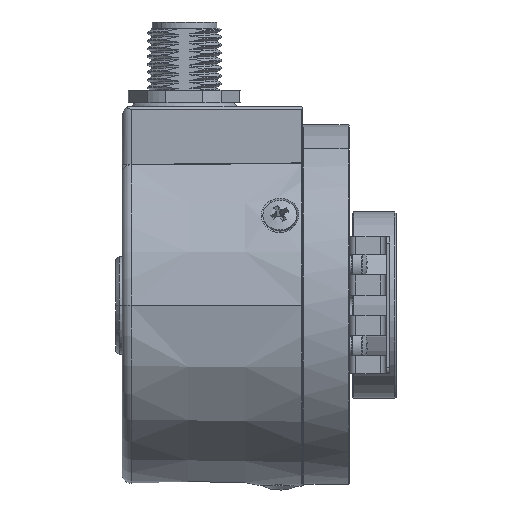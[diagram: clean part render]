
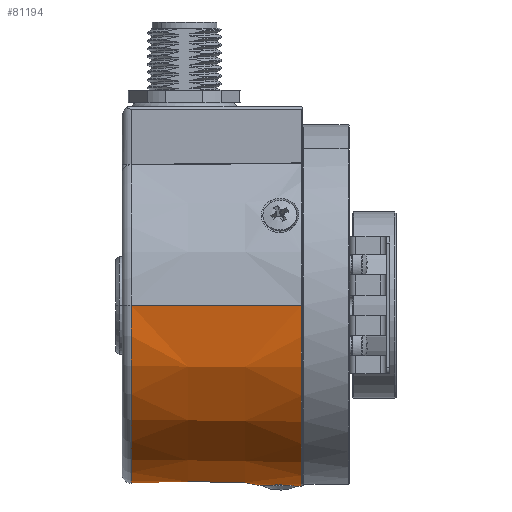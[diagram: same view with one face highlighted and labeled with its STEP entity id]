
A CAD part, left-side view. The second image highlights one B-rep face of the part: STEP entity #81194.
In plain terms, the highlighted conical face has half-angle 1 degrees and reference radius 28.565 mm.
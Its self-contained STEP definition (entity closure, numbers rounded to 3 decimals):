
#707 = CARTESIAN_POINT ( 'NONE',  ( -1.737, 8.646, -28.999 ) ) ;
#1125 = CARTESIAN_POINT ( 'NONE',  ( -1.563, 8.538, -29.012 ) ) ;
#1764 = CARTESIAN_POINT ( 'NONE',  ( 1.738, 13.7, -28.911 ) ) ;
#1955 = CARTESIAN_POINT ( 'NONE',  ( 3.014, 10.223, -28.867 ) ) ;
#2362 = CARTESIAN_POINT ( 'NONE',  ( 2.113, 8.913, -28.97 ) ) ;
#3081 = EDGE_CURVE ( 'NONE', #42388, #29071, #70096, .T. ) ;
#6128 = CARTESIAN_POINT ( 'NONE',  ( 29.068, 7.697, 0. ) ) ;
#6214 = VERTEX_POINT ( 'NONE', #62681 ) ;
#6353 = CARTESIAN_POINT ( 'NONE',  ( 1.738, 13.7, -28.911 ) ) ;
#7023 = CARTESIAN_POINT ( 'NONE',  ( 0.233, 8.153, -29.06 ) ) ;
#7522 = EDGE_CURVE ( 'NONE', #21101, #6214, #66672, .T. ) ;
#7581 = CARTESIAN_POINT ( 'NONE',  ( -2.834, 9.808, -28.892 ) ) ;
#8248 = CARTESIAN_POINT ( 'NONE',  ( -0.796, 8.242, -29.048 ) ) ;
#9918 = FACE_OUTER_BOUND ( 'NONE', #70378, .T. ) ;
#10313 = EDGE_CURVE ( 'NONE', #6214, #65807, #57290, .T. ) ;
#10319 = AXIS2_PLACEMENT_3D ( 'NONE', #61365, #24062, #74408 ) ;
#12244 = CARTESIAN_POINT ( 'NONE',  ( -2.085, 8.864, -28.975 ) ) ;
#12689 = CARTESIAN_POINT ( 'NONE',  ( 0.183, 14.216, -28.956 ) ) ;
#13040 = DIRECTION ( 'NONE',  ( 0., -1., 0. ) ) ;
#13089 = CARTESIAN_POINT ( 'NONE',  ( -1.43, 13.877, -28.925 ) ) ;
#13499 = CARTESIAN_POINT ( 'NONE',  ( -1.613, 13.782, -28.917 ) ) ;
#13919 = ORIENTED_EDGE ( 'NONE', *, *, #10313, .T. ) ;
#13929 = CARTESIAN_POINT ( 'NONE',  ( -3.059, 10.363, -28.86 ) ) ;
#14601 = CARTESIAN_POINT ( 'NONE',  ( 2.404, 9.196, -28.942 ) ) ;
#15263 = EDGE_CURVE ( 'NONE', #65807, #67108, #45537, .T. ) ;
#18612 = CARTESIAN_POINT ( 'NONE',  ( -3.17, 11.343, -28.83 ) ) ;
#19034 = CARTESIAN_POINT ( 'NONE',  ( 0.998, 14.069, -28.942 ) ) ;
#19715 = CARTESIAN_POINT ( 'NONE',  ( 1.953, 8.786, -28.984 ) ) ;
#20548 = CARTESIAN_POINT ( 'NONE',  ( 2.837, 12.533, -28.844 ) ) ;
#21101 = VERTEX_POINT ( 'NONE', #42099 ) ;
#23043 = CONICAL_SURFACE ( 'NONE', #82491, 28.565, 0.017 ) ;
#23873 = DIRECTION ( 'NONE',  ( -1., 0., 0. ) ) ;
#24062 = DIRECTION ( 'NONE',  ( 0., 1., 0. ) ) ;
#25783 = ORIENTED_EDGE ( 'NONE', *, *, #15263, .T. ) ;
#26469 = CARTESIAN_POINT ( 'NONE',  ( -28.565, 36.5, 0. ) ) ;
#26481 = CARTESIAN_POINT ( 'NONE',  ( 2.076, 13.465, -28.893 ) ) ;
#27726 = LINE ( 'NONE', #26469, #51540 ) ;
#27741 = CARTESIAN_POINT ( 'NONE',  ( 3.189, 10.994, -28.834 ) ) ;
#28148 = CARTESIAN_POINT ( 'NONE',  ( 2.534, 9.349, -28.928 ) ) ;
#29071 = VERTEX_POINT ( 'NONE', #73961 ) ;
#29784 = DIRECTION ( 'NONE',  ( 0., -1., 0. ) ) ;
#31745 = CARTESIAN_POINT ( 'NONE',  ( -1.957, 13.558, -28.9 ) ) ;
#32148 = CARTESIAN_POINT ( 'NONE',  ( -1.048, 14.032, -28.939 ) ) ;
#32851 = CARTESIAN_POINT ( 'NONE',  ( 2.737, 12.708, -28.851 ) ) ;
#33272 = CARTESIAN_POINT ( 'NONE',  ( 2.999, 12.168, -28.834 ) ) ;
#34951 = ORIENTED_EDGE ( 'NONE', *, *, #3081, .T. ) ;
#36995 = AXIS2_PLACEMENT_3D ( 'NONE', #38492, #13040, #57104 ) ;
#38492 = CARTESIAN_POINT ( 'NONE',  ( 0., 35.026, 0. ) ) ;
#38944 = CARTESIAN_POINT ( 'NONE',  ( -2.536, 12.995, -28.864 ) ) ;
#39198 = CARTESIAN_POINT ( 'NONE',  ( -0.181, 8.15, -29.06 ) ) ;
#39361 = CARTESIAN_POINT ( 'NONE',  ( -2.405, 13.15, -28.873 ) ) ;
#39784 = CARTESIAN_POINT ( 'NONE',  ( 1.389, 13.918, -28.928 ) ) ;
#42099 = CARTESIAN_POINT ( 'NONE',  ( -28.591, 35.026, 0. ) ) ;
#42388 = VERTEX_POINT ( 'NONE', #1764 ) ;
#44441 = CARTESIAN_POINT ( 'NONE',  ( -2.385, 9.146, -28.945 ) ) ;
#45537 = CIRCLE ( 'NONE', #10319, 29.068 ) ;
#45546 = CARTESIAN_POINT ( 'NONE',  ( 3.073, 10.411, -28.857 ) ) ;
#45830 = DIRECTION ( 'NONE',  ( 0.017, -1., 0. ) ) ;
#46139 = CARTESIAN_POINT ( 'NONE',  ( -2.879, 12.497, -28.842 ) ) ;
#46190 = VECTOR ( 'NONE', #45830, 1000. ) ;
#46407 = CARTESIAN_POINT ( 'NONE',  ( 2.503, 13.037, -28.866 ) ) ;
#46821 = CARTESIAN_POINT ( 'NONE',  ( -1.381, 8.446, -29.022 ) ) ;
#46884 = CARTESIAN_POINT ( 'NONE',  ( -29.068, 7.697, 0. ) ) ;
#51540 = VECTOR ( 'NONE', #58236, 1000. ) ;
#51649 = B_SPLINE_CURVE_WITH_KNOTS ( 'NONE', 3,
 ( #707, #1125, #46821, #53108, #8248, #59082, #39198, #7023, #72585, #71743, #60335, #19715, #2362, #14601, #28148, #66234, #53941, #1955, #45546, #27741, #52280, #78534, #33272, #20548, #32851, #46407, #71318, #26481, #58675, #78114 ),
 .UNSPECIFIED., .F., .F.,
 ( 4, 2, 2, 2, 2, 2, 2, 2, 2, 2, 2, 2, 2, 2, 4 ),
 ( 0.998, 1.029, 1.06, 1.092, 1.123, 1.185, 1.217, 1.248, 1.279, 1.31, 1.373, 1.404, 1.435, 1.467, 1.498 ),
 .UNSPECIFIED. ) ;
#52280 = CARTESIAN_POINT ( 'NONE',  ( 3.187, 11.397, -28.828 ) ) ;
#53108 = CARTESIAN_POINT ( 'NONE',  ( -0.997, 8.298, -29.041 ) ) ;
#53941 = CARTESIAN_POINT ( 'NONE',  ( 2.858, 9.855, -28.889 ) ) ;
#56420 = EDGE_CURVE ( 'NONE', #21101, #67108, #27726, .T. ) ;
#57104 = DIRECTION ( 'NONE',  ( 1., 0., 0. ) ) ;
#57290 = LINE ( 'NONE', #58124, #46190 ) ;
#57669 = EDGE_LOOP ( 'NONE', ( #79712, #34951 ) ) ;
#57993 = CARTESIAN_POINT ( 'NONE',  ( -3.144, 10.75, -28.844 ) ) ;
#58124 = CARTESIAN_POINT ( 'NONE',  ( 28.565, 36.5, 0. ) ) ;
#58236 = DIRECTION ( 'NONE',  ( -0.017, -1., 0. ) ) ;
#58675 = CARTESIAN_POINT ( 'NONE',  ( 1.913, 13.591, -28.902 ) ) ;
#59082 = CARTESIAN_POINT ( 'NONE',  ( -0.387, 8.168, -29.058 ) ) ;
#60335 = CARTESIAN_POINT ( 'NONE',  ( 1.439, 8.452, -29.021 ) ) ;
#61365 = CARTESIAN_POINT ( 'NONE',  ( 0., 7.697, 0. ) ) ;
#62681 = CARTESIAN_POINT ( 'NONE',  ( 28.591, 35.026, 0. ) ) ;
#63242 = ORIENTED_EDGE ( 'NONE', *, *, #7522, .T. ) ;
#64326 = CARTESIAN_POINT ( 'NONE',  ( -3.036, 12.125, -28.831 ) ) ;
#64743 = CARTESIAN_POINT ( 'NONE',  ( -3.151, 11.541, -28.829 ) ) ;
#65568 = CARTESIAN_POINT ( 'NONE',  ( -2.997, 10.173, -28.87 ) ) ;
#65807 = VERTEX_POINT ( 'NONE', #6128 ) ;
#66234 = CARTESIAN_POINT ( 'NONE',  ( 2.761, 9.678, -28.902 ) ) ;
#66672 = CIRCLE ( 'NONE', #36995, 28.591 ) ;
#67108 = VERTEX_POINT ( 'NONE', #46884 ) ;
#69334 = EDGE_CURVE ( 'NONE', #29071, #42388, #51649, .T. ) ;
#70096 = B_SPLINE_CURVE_WITH_KNOTS ( 'NONE', 3,
 ( #6353, #39784, #19034, #12689, #78280, #71479, #32148, #13089, #13499, #31745, #71074, #39361, #38944, #46139, #64326, #64743, #18612, #71909, #57993, #13929, #65568, #7581, #70231, #44441, #12244, #73985 ),
 .UNSPECIFIED., .F., .F.,
 ( 4, 2, 2, 2, 2, 2, 2, 2, 2, 2, 2, 2, 4 ),
 ( 0.498, 0.56, 0.623, 0.654, 0.685, 0.717, 0.748, 0.81, 0.842, 0.873, 0.904, 0.935, 0.998 ),
 .UNSPECIFIED. ) ;
#70231 = CARTESIAN_POINT ( 'NONE',  ( -2.735, 9.636, -28.905 ) ) ;
#70378 = EDGE_LOOP ( 'NONE', ( #63242, #13919, #25783, #73227 ) ) ;
#71074 = CARTESIAN_POINT ( 'NONE',  ( -2.115, 13.432, -28.891 ) ) ;
#71318 = CARTESIAN_POINT ( 'NONE',  ( 2.371, 13.188, -28.875 ) ) ;
#71479 = CARTESIAN_POINT ( 'NONE',  ( -0.851, 14.091, -28.944 ) ) ;
#71743 = CARTESIAN_POINT ( 'NONE',  ( 1.053, 8.296, -29.041 ) ) ;
#71909 = CARTESIAN_POINT ( 'NONE',  ( -3.166, 10.946, -28.838 ) ) ;
#72585 = CARTESIAN_POINT ( 'NONE',  ( 0.441, 8.174, -29.057 ) ) ;
#73227 = ORIENTED_EDGE ( 'NONE', *, *, #56420, .F. ) ;
#73961 = CARTESIAN_POINT ( 'NONE',  ( -1.737, 8.646, -28.999 ) ) ;
#73985 = CARTESIAN_POINT ( 'NONE',  ( -1.737, 8.646, -28.999 ) ) ;
#74243 = FACE_BOUND ( 'NONE', #57669, .T. ) ;
#74408 = DIRECTION ( 'NONE',  ( 1., 0., 0. ) ) ;
#78114 = CARTESIAN_POINT ( 'NONE',  ( 1.738, 13.7, -28.911 ) ) ;
#78280 = CARTESIAN_POINT ( 'NONE',  ( -0.24, 14.213, -28.956 ) ) ;
#78534 = CARTESIAN_POINT ( 'NONE',  ( 3.06, 11.981, -28.831 ) ) ;
#79712 = ORIENTED_EDGE ( 'NONE', *, *, #69334, .T. ) ;
#80605 = CARTESIAN_POINT ( 'NONE',  ( 0., 36.5, 0. ) ) ;
#81194 = ADVANCED_FACE ( 'NONE', ( #74243, #9918 ), #23043, .T. ) ;
#82491 = AXIS2_PLACEMENT_3D ( 'NONE', #80605, #29784, #23873 ) ;
